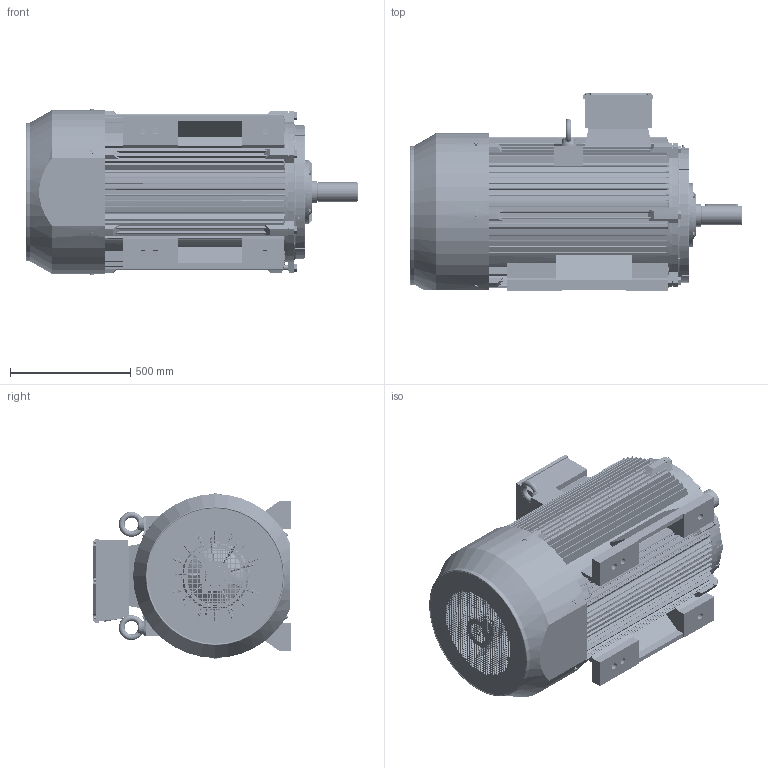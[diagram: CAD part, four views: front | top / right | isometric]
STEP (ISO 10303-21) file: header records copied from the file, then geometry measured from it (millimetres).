
FILE_DESCRIPTION (( 'STEP AP203' ), '1' );
FILE_NAME ('TC 315M-L外形图.STEP', '2013-02-28T07:35:21', ( '微软用户' ), ( '微软中国' ), 'SwSTEP 2.0', 'SolidWorks 2008', '' );
FILE_SCHEMA (( 'CONFIG_CONTROL_DESIGN' ));
Length unit declared in the file: millimetre
Products named in the file (21): TC 315-4 B3端盖_默认; TC 315-4轴承外盖_默认; TC 315M-4转轴_默认; TC 315-4风罩_默认; 油封120-95-12_默认; 铜油嘴_默认; M20-70_默认; TC 315M-L俋倛芞; TC 315M-L机壳_默认; TC 315接线盒座_默认; TC 315接线盒盖_默认; TC 315-4 B3后端盖_默认; TC 315-4轴承內盖_默认; ｷ釁ﾖﾂﾝｶ､ｼﾓｵ貳ｬ_ﾄｬﾈﾏ; 扣塞_默认; M10-90_默认; TC 315-4风叶_默认; M10-25_默认; 吊环M30_默认; M63螺塞_默认; TC 315铭牌_默认
Assembly tree (44 placements, depth 2):
  TC 315M-L俋倛芞
    TC 315接线盒座_默认
    M20-70_默认  x6
    TC 315接线盒盖_默认
    ｷ釁ﾖﾂﾝｶ､ｼﾓｵ貳ｬ_ﾄｬﾈﾏ  x6
    M10-25_默认  x6
    TC 315-4轴承外盖_默认  x2
    铜油嘴_默认  x2
    扣塞_默认
    油封120-95-12_默认  x2
    M63螺塞_默认  x2
    M10-90_默认  x4
    TC 315-4轴承內盖_默认  x2
    TC 315-4 B3端盖_默认
    吊环M30_默认  x2
    TC 315-4风罩_默认
    TC 315-4 B3后端盖_默认
    TC 315M-4转轴_默认
    TC 315铭牌_默认
    TC 315M-L机壳_默认
    TC 315-4风叶_默认
Bounding box: 1382 x 823 x 694.6 mm (x, y, z)
Volume: 114034020.3 mm3; surface area: 12827857.1 mm2
Topology: 46 solids, 46 shells, 8368 faces, 23417 edges, 15276 vertices
Faces by surface type: plane 5822, cylinder 1009, cone 498, torus 486, bspline 305, sphere 248
Entity records: 273379 total; most frequent: CARTESIAN_POINT 76558, ORIENTED_EDGE 42130, DIRECTION 36105, EDGE_CURVE 21065, LINE 15345, VECTOR 15345, VERTEX_POINT 13779, AXIS2_PLACEMENT_3D 10380
